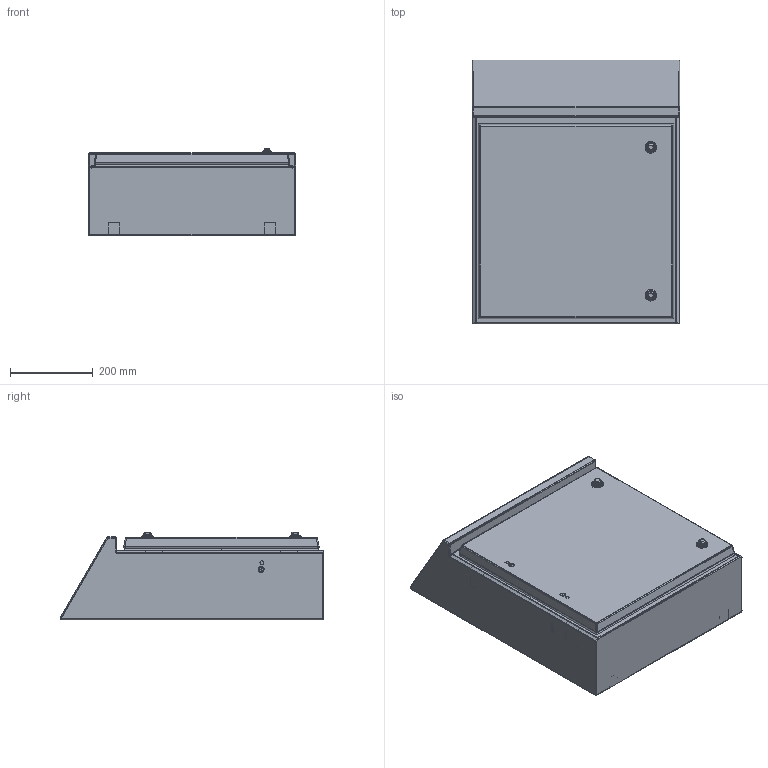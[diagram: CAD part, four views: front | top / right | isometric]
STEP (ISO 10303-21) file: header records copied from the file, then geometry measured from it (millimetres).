
FILE_DESCRIPTION (( 'STEP AP203' ), '1' );
FILE_NAME ('SITO-QSH55.STEP', '2021-05-06T07:06:23', ( '' ), ( '' ), 'SwSTEP 2.0', 'SolidWorks 2020', '' );
FILE_SCHEMA (( 'CONFIG_CONTROL_DESIGN' ));
Length unit declared in the file: millimetre
Products named in the file (18): CERNIERA; SITO-PORTA QSH55; PRM615TL316; SITO-QSH55; 1000-S1491; ADMT_ADMT; GHIERA SG CASSETTE; RP0612I; Scarpetta H.32 SG460-SD_Configurazione 2; DM06I; SITO-FASCIAME QSH55_QSH45; CEPOM(CORPO); SITO-ASSIEME PORTA QSH55; SVPIQSH55A; SG460-32-HD_Posizione 4; DMFD08Z; PIQSH55A; SG460-32-HD_Posizione 3
Assembly tree (31 placements, depth 4):
  SITO-QSH55
    SITO-FASCIAME QSH55_QSH45
    PIQSH55A
      SVPIQSH55A
    SITO-ASSIEME PORTA QSH55
      SITO-PORTA QSH55
      SG460-32-HD_Posizione 4
        1000-S1491
        GHIERA SG CASSETTE
        Scarpetta H.32 SG460-SD_Configurazione 2
        CEPOM(CORPO)
      SG460-32-HD_Posizione 3
        1000-S1491
        GHIERA SG CASSETTE
        Scarpetta H.32 SG460-SD_Configurazione 2
        CEPOM(CORPO)
      PRM615TL316  x2
      ADMT_ADMT  x2
      RP0612I  x2
      DM06I  x2
    DMFD08Z  x4
    ADMT_ADMT  x2
    CERNIERA  x2
Bounding box: 500 x 637.07 x 211.59 mm (x, y, z)
Volume: 2665753.4 mm3; surface area: 2832990.9 mm2
Topology: 33 solids, 33 shells, 1480 faces, 3615 edges, 2243 vertices
Faces by surface type: plane 766, cylinder 462, cone 124, bspline 86, sphere 28, torus 14
Entity records: 32040 total; most frequent: CARTESIAN_POINT 8103, DIRECTION 4556, ORIENTED_EDGE 4494, EDGE_CURVE 2247, AXIS2_PLACEMENT_3D 1590, VERTEX_POINT 1394, VECTOR 1376, LINE 1376
